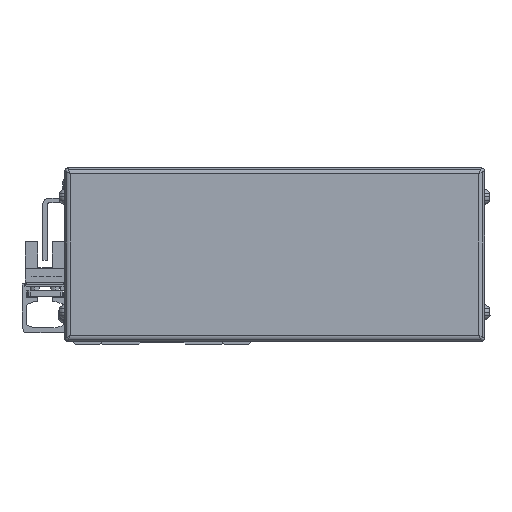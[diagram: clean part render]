
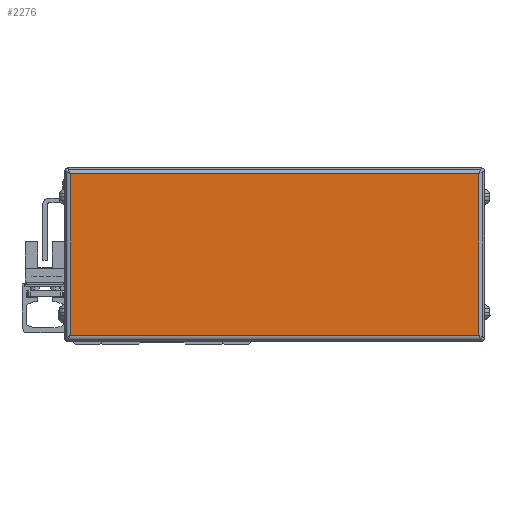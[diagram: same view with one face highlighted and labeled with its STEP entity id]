
A CAD part, left-side view. The second image highlights one B-rep face of the part: STEP entity #2276.
In plain terms, the highlighted planar face has unit normal (-1, 0, 0).
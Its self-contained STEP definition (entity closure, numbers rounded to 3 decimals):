
#2276=ADVANCED_FACE('',(#4645),#4646,.T.);
#4645=FACE_OUTER_BOUND('',#9837,.T.);
#4646=PLANE('',#9838);
#9837=EDGE_LOOP('',(#16729,#16730,#16731,#16732));
#9838=AXIS2_PLACEMENT_3D('',#16733,#16734,#16735);
#16729=ORIENTED_EDGE('',*,*,#35258,.F.);
#16730=ORIENTED_EDGE('',*,*,#35246,.F.);
#16731=ORIENTED_EDGE('',*,*,#35250,.F.);
#16732=ORIENTED_EDGE('',*,*,#35254,.F.);
#16733=CARTESIAN_POINT('',(-54.,-39.,-1.));
#16734=DIRECTION('',(-1.0,0.,0.));
#16735=DIRECTION('',(0.,0.,1.0));
#35246=EDGE_CURVE('',#41227,#41229,#41230,.T.);
#35250=EDGE_CURVE('',#41235,#41227,#41237,.T.);
#35254=EDGE_CURVE('',#41242,#41235,#41244,.T.);
#35258=EDGE_CURVE('',#41229,#41242,#41250,.T.);
#41227=VERTEX_POINT('',#51082);
#41229=VERTEX_POINT('',#51084);
#41230=LINE('',#51085,#51086);
#41235=VERTEX_POINT('',#51092);
#41237=LINE('',#51094,#51095);
#41242=VERTEX_POINT('',#51101);
#41244=LINE('',#51103,#51104);
#41250=LINE('',#51111,#51112);
#51082=CARTESIAN_POINT('',(-54.,31.7,-29.));
#51084=CARTESIAN_POINT('',(-54.,31.7,27.));
#51085=CARTESIAN_POINT('',(-54.0,31.7,-1.));
#51086=VECTOR('',#65847,10.0);
#51092=CARTESIAN_POINT('',(-54.,-109.7,-29.));
#51094=CARTESIAN_POINT('',(-54.,-39.,-29.));
#51095=VECTOR('',#65855,10.0);
#51101=CARTESIAN_POINT('',(-54.,-109.7,27.));
#51103=CARTESIAN_POINT('',(-54.,-109.7,-1.));
#51104=VECTOR('',#65863,10.0);
#51111=CARTESIAN_POINT('',(-54.,-39.,27.));
#51112=VECTOR('',#65871,10.0);
#65847=DIRECTION('',(0.,0.,1.0));
#65855=DIRECTION('',(0.,1.0,0.));
#65863=DIRECTION('',(0.,0.,-1.0));
#65871=DIRECTION('',(0.,-1.0,0.));
